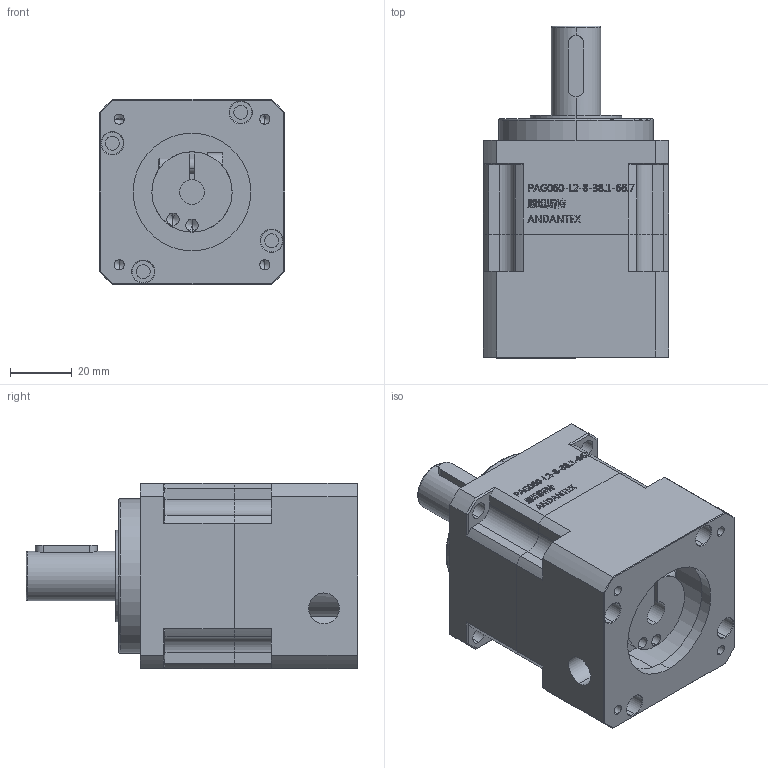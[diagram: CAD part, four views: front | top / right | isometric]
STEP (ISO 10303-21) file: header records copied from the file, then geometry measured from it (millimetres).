
FILE_DESCRIPTION (( 'STEP AP203' ), '1' );
FILE_NAME ('PAG060-L1-8-38.1-66.7.STEP', '2022-07-18T07:28:17', ( 'Windows User' ), ( 'P R C' ), 'SwSTEP 2.0', 'SolidWorks 2016', '' );
FILE_SCHEMA (( 'CONFIG_CONTROL_DESIGN' ));
Length unit declared in the file: millimetre
Products named in the file (5): 囀鞠褒蹟佪-M5℅16; PAG060-L1-8-38.1-66.7; PAG60俋倛芞奻裔啣_72T; PAG60俋倛芞狟裔啣-8-38.1-66.7-M4; 邧埴瑩 5x5x20
Assembly tree (4 placements, depth 2):
  PAG060-L1-8-38.1-66.7
    PAG60俋倛芞奻裔啣_72T
    PAG60俋倛芞狟裔啣-8-38.1-66.7-M4
    邧埴瑩 5x5x20
    囀鞠褒蹟佪-M5℅16
Bounding box: 60 x 107.5 x 60 mm (x, y, z)
Volume: 225807.9 mm3; surface area: 48727.4 mm2
Topology: 4 solids, 4 shells, 852 faces, 2238 edges, 1465 vertices
Faces by surface type: plane 487, bspline 196, cylinder 119, cone 42, torus 8
Entity records: 35764 total; most frequent: CARTESIAN_POINT 15442, ORIENTED_EDGE 4432, DIRECTION 3393, EDGE_CURVE 2216, VECTOR 1497, LINE 1497, VERTEX_POINT 1465, EDGE_LOOP 969
